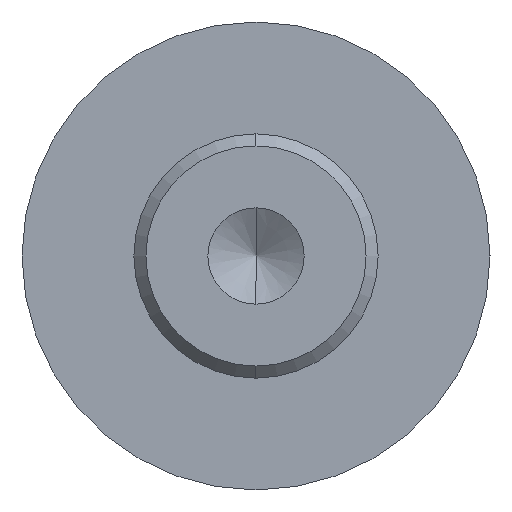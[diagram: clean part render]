
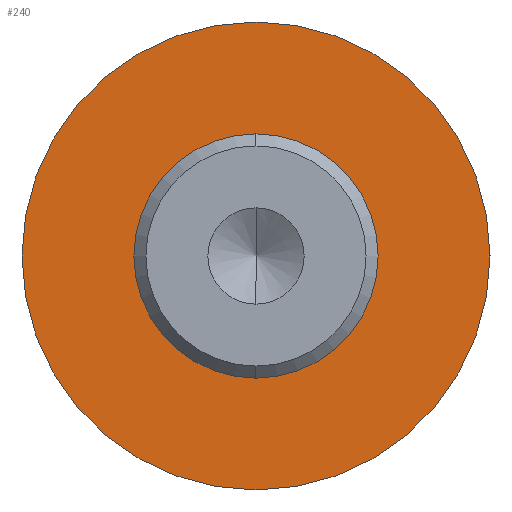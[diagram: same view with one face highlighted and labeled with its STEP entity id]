
A CAD part, left-side view. The second image highlights one B-rep face of the part: STEP entity #240.
In plain terms, the highlighted planar face has unit normal (-1, 0, 0).
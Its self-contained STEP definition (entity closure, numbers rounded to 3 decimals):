
#7 = CARTESIAN_POINT ( 'NONE',  ( -0.6, 0., 0. ) ) ;
#14 = EDGE_CURVE ( 'NONE', #18, #608, #168, .T. ) ;
#18 = VERTEX_POINT ( 'NONE', #107 ) ;
#40 = AXIS2_PLACEMENT_3D ( 'NONE', #557, #319, #373 ) ;
#57 = ORIENTED_EDGE ( 'NONE', *, *, #478, .F. ) ;
#59 = VERTEX_POINT ( 'NONE', #594 ) ;
#94 = CARTESIAN_POINT ( 'NONE',  ( -0.6, 0., 1.945 ) ) ;
#107 = CARTESIAN_POINT ( 'NONE',  ( -0.6, 0., 1.015 ) ) ;
#126 = FACE_BOUND ( 'NONE', #194, .T. ) ;
#133 = DIRECTION ( 'NONE',  ( 0., 0., -1. ) ) ;
#137 = DIRECTION ( 'NONE',  ( 1., 0., 0. ) ) ;
#168 = CIRCLE ( 'NONE', #379, 1.015 ) ;
#175 = CIRCLE ( 'NONE', #253, 1.945 ) ;
#187 = EDGE_CURVE ( 'NONE', #608, #18, #204, .T. ) ;
#194 = EDGE_LOOP ( 'NONE', ( #232, #460 ) ) ;
#204 = CIRCLE ( 'NONE', #528, 1.015 ) ;
#211 = AXIS2_PLACEMENT_3D ( 'NONE', #442, #251, #258 ) ;
#226 = EDGE_LOOP ( 'NONE', ( #57, #438 ) ) ;
#232 = ORIENTED_EDGE ( 'NONE', *, *, #187, .T. ) ;
#240 = ADVANCED_FACE ( 'NONE', ( #600, #126 ), #467, .T. ) ;
#250 = DIRECTION ( 'NONE',  ( 1., 0., 0. ) ) ;
#251 = DIRECTION ( 'NONE',  ( 1., 0., 0. ) ) ;
#253 = AXIS2_PLACEMENT_3D ( 'NONE', #597, #462, #464 ) ;
#254 = DIRECTION ( 'NONE',  ( 0., 0., -1. ) ) ;
#258 = DIRECTION ( 'NONE',  ( 0., 0., -1. ) ) ;
#262 = EDGE_CURVE ( 'NONE', #385, #59, #175, .T. ) ;
#319 = DIRECTION ( 'NONE',  ( -1., 0., 0. ) ) ;
#329 = CARTESIAN_POINT ( 'NONE',  ( -0.6, 0., 0. ) ) ;
#373 = DIRECTION ( 'NONE',  ( 0., 0., 1. ) ) ;
#379 = AXIS2_PLACEMENT_3D ( 'NONE', #7, #250, #254 ) ;
#385 = VERTEX_POINT ( 'NONE', #94 ) ;
#438 = ORIENTED_EDGE ( 'NONE', *, *, #262, .F. ) ;
#442 = CARTESIAN_POINT ( 'NONE',  ( -0.6, 0., 0. ) ) ;
#460 = ORIENTED_EDGE ( 'NONE', *, *, #14, .T. ) ;
#462 = DIRECTION ( 'NONE',  ( 1., 0., 0. ) ) ;
#464 = DIRECTION ( 'NONE',  ( 0., 0., -1. ) ) ;
#467 = PLANE ( 'NONE',  #40 ) ;
#478 = EDGE_CURVE ( 'NONE', #59, #385, #593, .T. ) ;
#499 = CARTESIAN_POINT ( 'NONE',  ( -0.6, 0., -1.015 ) ) ;
#528 = AXIS2_PLACEMENT_3D ( 'NONE', #329, #137, #133 ) ;
#557 = CARTESIAN_POINT ( 'NONE',  ( -0.6, 1.945, 0. ) ) ;
#593 = CIRCLE ( 'NONE', #211, 1.945 ) ;
#594 = CARTESIAN_POINT ( 'NONE',  ( -0.6, 0., -1.945 ) ) ;
#597 = CARTESIAN_POINT ( 'NONE',  ( -0.6, 0., 0. ) ) ;
#600 = FACE_OUTER_BOUND ( 'NONE', #226, .T. ) ;
#608 = VERTEX_POINT ( 'NONE', #499 ) ;
